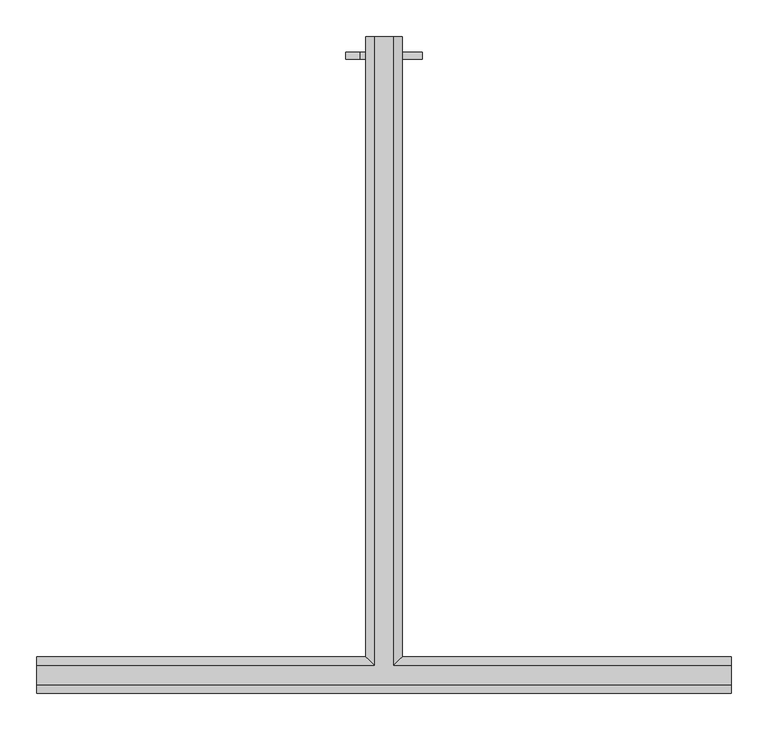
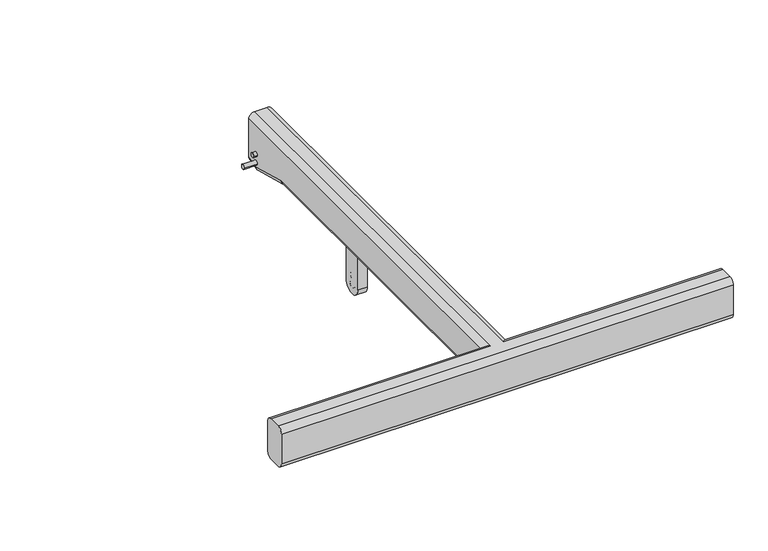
"""IFC4 building model written with IfcOpenShell, lengths in millimetres: proxy geometry, d&b SL-Series KSLi SUB Mounting Adapter : KSLi SUB Mounting Adapter."""

from ifc_helpers import new_model, si_unit, point, frame, frame_2d, origin, place, context, project, spatial, polyline, circle_curve, ellipse_curve, trimmed, segment, composite_curve, outline, extrude, source, transform, mapped, element, save
from ifc_brep_helpers import plane_surface, cylinder_surface, extruded_surface, advanced_brep


def communication_devices_4359931a(model_context):
    return source(origin(), model_context, "Body", "SolidModel", [
        extrude(outline(composite_curve([segment(trimmed(circle_curve(frame_2d((870.9465956, -6.4396812)), 5.0), [point((875.9465956, -6.4396812))], [point((865.9465956, -6.4396812))], False, "CARTESIAN"), True, "CONTINUOUS"), segment(trimmed(circle_curve(frame_2d((870.9465956, -6.4396812)), 5.0), [point((865.9465956, -6.4396812))], [point((875.9465956, -6.4396812))], False, "CARTESIAN"), True, "CONTINUOUS")], self_intersect=False)), frame((-52.7, 0.0, 0.0), z_axis=(1.0, 0.0, 0.0), x_axis=(0.0, 1.0, 0.0)), (0.0, 0.0, 1.0), 27.7),
        extrude(outline(composite_curve([segment(trimmed(circle_curve(frame_2d((870.9465956, 12.4665688)), 5.0), [point((875.9465956, 12.4665688))], [point((865.9465956, 12.4665688))], False, "CARTESIAN"), True, "CONTINUOUS"), segment(trimmed(circle_curve(frame_2d((870.9465956, 12.4665688)), 5.0), [point((865.9465956, 12.4665688))], [point((875.9465956, 12.4665688))], False, "CARTESIAN"), True, "CONTINUOUS")], self_intersect=False)), frame((-32.322499, 0.0, 0.0), z_axis=(1.0, 0.0, 0.0), x_axis=(0.0, 1.0, 0.0)), (0.0, 0.0, 1.0), 7.322499),
        extrude(outline(composite_curve([segment(trimmed(circle_curve(frame_2d((870.9465956, 12.4665688)), 5.0), [point((875.9465956, 12.4665688))], [point((865.9465956, 12.4665688))], False, "CARTESIAN"), True, "CONTINUOUS"), segment(trimmed(circle_curve(frame_2d((870.9465956, 12.4665688)), 5.0), [point((865.9465956, 12.4665688))], [point((875.9465956, 12.4665688))], False, "CARTESIAN"), True, "CONTINUOUS")], self_intersect=False)), frame((25.0, 0.0, 0.0), z_axis=(1.0, 0.0, 0.0), x_axis=(0.0, 1.0, 0.0)), (0.0, 0.0, 1.0), 27.7),
        advanced_brep(
        [(475.75, -2.8125, 9.0), (475.75, 9.1875, -3.0), (475.75, 35.1875, -3.0), (475.75, 47.1875, 9.0), (475.75, 47.1875, 75.0), (475.75, 35.1875, 87.0), (475.75, 9.1875, 87.0), (475.75, -2.8125, 75.0), (-475.75, -2.8125, 9.0), (-475.75, -2.8125, 75.0), (-475.75, 9.1875, 87.0), (-475.75, 35.1875, 87.0), (-475.75, 47.1875, 75.0), (-475.75, 47.1875, 9.0), (-475.75, 35.1875, -3.0), (-475.75, 9.1875, -3.0), (-13.0, 35.1875, -3.0), (-13.0, 779.1729408, -3.0), (13.0, 779.1729408, -3.0), (13.0, 35.1875, -3.0), (25.0, 47.1875, 9.0), (25.0, 47.1875, 75.0), (-25.0, 47.1875, 75.0), (-25.0, 47.1875, 9.0), (13.0, 35.1875, 87.0), (13.0, 897.1875, 87.0), (-13.0, 897.1875, 87.0), (-13.0, 35.1875, 87.0), (32.322499, 875.9465956, -6.4396812), (32.322499, 865.9465956, -6.4396812), (25.0, 875.9465956, -6.4396812), (25.0, 865.9465956, -6.4396812), (-25.0, 897.1875, 75.0), (25.0, 897.1875, 75.0), (25.0, 897.1875, -8.9728655), (13.0, 897.1875, -20.9728655), (-13.0, 897.1875, -20.9728655), (-25.0, 897.1875, -8.9728655), (25.0, 779.1729408, 9.0), (25.0, 870.9375, -16.1741308), (-25.0, 870.9375, -16.1741308), (-25.0, 779.1729408, 9.0), (13.0, 870.9375, -28.1741308), (-13.0, 870.9375, -28.1741308)],
        [
            (0, 1, circle_curve(frame((475.75, 9.1875, 9.0), z_axis=(1.0, 0.0, 0.0), x_axis=(0.0, -1.0, 0.0)), 12.0)),
            (1, 2),
            (2, 3, circle_curve(frame((475.75, 35.1875, 9.0), z_axis=(1.0, 0.0, 0.0), x_axis=(0.0, -1.0, 0.0)), 12.0)),
            (3, 4),
            (4, 5, circle_curve(frame((475.75, 35.1875, 75.0), z_axis=(1.0, 0.0, 0.0), x_axis=(0.0, -1.0, 0.0)), 12.0)),
            (5, 6),
            (6, 7, circle_curve(frame((475.75, 9.1875, 75.0), z_axis=(1.0, 0.0, 0.0), x_axis=(0.0, -1.0, 0.0)), 12.0)),
            (7, 0),
            (8, 9),
            (9, 10, circle_curve(frame((-475.75, 9.1875, 75.0), z_axis=(-1.0, 0.0, 0.0), x_axis=(0.0, -1.0, 0.0)), 12.0)),
            (10, 11),
            (11, 12, circle_curve(frame((-475.75, 35.1875, 75.0), z_axis=(-1.0, 0.0, 0.0), x_axis=(0.0, -1.0, 0.0)), 12.0)),
            (12, 13),
            (13, 14, circle_curve(frame((-475.75, 35.1875, 9.0), z_axis=(-1.0, 0.0, 0.0), x_axis=(0.0, -1.0, 0.0)), 12.0)),
            (14, 15),
            (15, 8, circle_curve(frame((-475.75, 9.1875, 9.0), z_axis=(-1.0, 0.0, 0.0), x_axis=(0.0, -1.0, 0.0)), 12.0)),
            (1, 15),
            (14, 16),
            (16, 17),
            (17, 18),
            (18, 19),
            (19, 2),
            (3, 20),
            (20, 21),
            (21, 4),
            (12, 22),
            (22, 23),
            (23, 13),
            (5, 24),
            (24, 25),
            (25, 26),
            (26, 27),
            (27, 11),
            (10, 6),
            (7, 9),
            (8, 0),
            (19, 20, ellipse_curve(frame((13.0, 35.1875, 9.0), z_axis=(0.7071067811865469, -0.7071067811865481, 0.0), x_axis=(0.7071067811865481, 0.7071067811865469, 0.0)), 16.9705627, 12.0)),
            (23, 16, ellipse_curve(frame((-13.0, 35.1875, 9.0), z_axis=(-0.7071067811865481, -0.7071067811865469, 0.0), x_axis=(0.7071067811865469, -0.7071067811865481, 0.0)), 16.9705627, 12.0)),
            (21, 24, ellipse_curve(frame((13.0, 35.1875, 75.0), z_axis=(0.7071067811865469, -0.7071067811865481, 0.0), x_axis=(0.7071067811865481, 0.7071067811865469, 0.0)), 16.9705627, 12.0)),
            (27, 22, ellipse_curve(frame((-13.0, 35.1875, 75.0), z_axis=(-0.7071067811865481, -0.7071067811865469, 0.0), x_axis=(0.7071067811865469, -0.7071067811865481, 0.0)), 16.9705627, 12.0)),
            (28, 29, circle_curve(frame((32.322499, 870.9465956, -6.4396812), z_axis=(1.0, 0.0, 0.0), x_axis=(0.0, -1.0, 0.0)), 5.0)),
            (29, 28, circle_curve(frame((32.322499, 870.9465956, -6.4396812), z_axis=(1.0, 0.0, 0.0), x_axis=(0.0, -1.0, 0.0)), 5.0)),
            (28, 30),
            (30, 31, circle_curve(frame((25.0, 870.9465956, -6.4396812), z_axis=(1.0, 0.0, 0.0), x_axis=(0.0, -1.0, 0.0)), 5.0)),
            (31, 29),
            (31, 30, circle_curve(frame((25.0, 870.9465956, -6.4396812), z_axis=(1.0, 0.0, 0.0), x_axis=(0.0, -1.0, 0.0)), 5.0)),
            (32, 26, circle_curve(frame((-13.0, 897.1875, 75.0), z_axis=(0.0, 1.0, 0.0), x_axis=(1.0, 0.0, 0.0)), 12.0)),
            (25, 33, circle_curve(frame((13.0, 897.1875, 75.0), z_axis=(0.0, 1.0, 0.0), x_axis=(1.0, 0.0, 0.0)), 12.0)),
            (33, 34),
            (34, 35, circle_curve(frame((13.0, 897.1875, -8.9728655), z_axis=(0.0, 1.0, 0.0), x_axis=(1.0, 0.0, 0.0)), 12.0)),
            (35, 36),
            (36, 37, circle_curve(frame((-13.0, 897.1875, -8.9728655), z_axis=(0.0, 1.0, 0.0), x_axis=(1.0, 0.0, 0.0)), 12.0)),
            (37, 32),
            (33, 21),
            (20, 38),
            (38, 39),
            (39, 34),
            (22, 32),
            (37, 40),
            (40, 41),
            (41, 23),
            (41, 17, circle_curve(frame((-13.0, 779.1729408, 9.0), z_axis=(0.0, -1.0, 0.0), x_axis=(1.0, 0.0, 0.0)), 12.0)),
            (18, 38, circle_curve(frame((13.0, 779.1729408, 9.0), z_axis=(0.0, -1.0, 0.0), x_axis=(1.0, 0.0, 0.0)), 12.0)),
            (39, 42, circle_curve(frame((13.0, 870.9375, -16.1741308), z_axis=(0.0, 1.0, 0.0), x_axis=(1.0, 0.0, 0.0)), 12.0)),
            (42, 35),
            (42, 43),
            (43, 36),
            (43, 40, circle_curve(frame((-13.0, 870.9375, -16.1741308), z_axis=(0.0, 1.0, 0.0), x_axis=(1.0, 0.0, 0.0)), 12.0)),
            (18, 42),
            (17, 43),
        ],
        [
            plane_surface(frame((475.75, -2.8125, 9.0), z_axis=(1.0, 0.0, 0.0), x_axis=(0.0, 0.0, -1.0))),
            plane_surface(frame((-475.75, -2.8125, 9.0), z_axis=(-1.0, 0.0, 0.0), x_axis=(0.0, 0.0, 1.0))),
            plane_surface(frame((475.75, 9.1875, -3.0), z_axis=(0.0, 0.0, -1.0), x_axis=(-1.0, 0.0, 0.0))),
            plane_surface(frame((475.75, 47.1875, 9.0), z_axis=(0.0, 1.0, 0.0), x_axis=(-1.0, 0.0, 0.0))),
            plane_surface(frame((475.75, 35.1875, 87.0), z_axis=(0.0, 0.0, 1.0), x_axis=(-1.0, 0.0, 0.0))),
            plane_surface(frame((475.75, -2.8125, 75.0), z_axis=(0.0, -1.0, 0.0), x_axis=(-1.0, 0.0, 0.0))),
            cylinder_surface(frame((-475.75, 9.1875, 9.0), z_axis=(1.0, 0.0, 0.0), x_axis=(0.0, -1.0, 0.0)), 12.0),
            cylinder_surface(frame((-475.75, 35.1875, 9.0), z_axis=(1.0, 0.0, 0.0), x_axis=(0.0, -1.0, 0.0)), 12.0),
            cylinder_surface(frame((-475.75, 35.1875, 75.0), z_axis=(1.0, 0.0, 0.0), x_axis=(0.0, -1.0, 0.0)), 12.0),
            cylinder_surface(frame((-475.75, 9.1875, 75.0), z_axis=(1.0, 0.0, 0.0), x_axis=(0.0, -1.0, 0.0)), 12.0),
            plane_surface(frame((32.322499, 865.9465956, -6.4396812), z_axis=(1.0, 0.0, 0.0), x_axis=(0.0, 0.0, -1.0))),
            cylinder_surface(frame((25.0, 870.9465956, -6.4396812), z_axis=(1.0, 0.0, 0.0), x_axis=(0.0, -1.0, 0.0)), 5.0),
            plane_surface(frame((-1.0, 897.1875, 9.0), z_axis=(0.0, 1.0, 0.0), x_axis=(0.0, 0.0, -1.0))),
            plane_surface(frame((25.0, 14.0, 9.0), z_axis=(1.0, 0.0, 0.0), x_axis=(0.0, 1.0, 0.0))),
            plane_surface(frame((-25.0, 14.0, 75.0), z_axis=(-1.0, 0.0, 0.0), x_axis=(0.0, 1.0, 0.0))),
            cylinder_surface(frame((-13.0, 897.1875, 9.0), z_axis=(0.0, -1.0, 0.0), x_axis=(1.0, 0.0, 0.0)), 12.0),
            cylinder_surface(frame((13.0, 897.1875, 9.0), z_axis=(0.0, -1.0, 0.0), x_axis=(1.0, 0.0, 0.0)), 12.0),
            cylinder_surface(frame((13.0, 897.1875, 75.0), z_axis=(0.0, -1.0, 0.0), x_axis=(1.0, 0.0, 0.0)), 12.0),
            cylinder_surface(frame((-13.0, 897.1875, 75.0), z_axis=(0.0, -1.0, 0.0), x_axis=(1.0, 0.0, 0.0)), 12.0),
            extruded_surface(trimmed(circle_curve(frame((13.0, 897.1875, -8.9728655), z_axis=(0.0, -1.0, 0.0), x_axis=(1.0, 0.0, 0.0)), 12.0), [point((13.0, 897.1875, -20.9728655))], [point((25.0, 897.1875, -8.9728655))], True, "CARTESIAN"), (0.0, -26.25, -7.201265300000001), 27.219858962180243),
            plane_surface(frame((0.0, 897.1875, -20.9728655), z_axis=(0.0, 0.26455924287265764, -0.9643694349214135), x_axis=(1.0, 0.0, 0.0))),
            extruded_surface(trimmed(circle_curve(frame((-13.0, 897.1875, -8.9728655), z_axis=(0.0, -1.0, 0.0), x_axis=(1.0, 0.0, 0.0)), 12.0), [point((-25.0, 897.1875, -8.9728655))], [point((-13.0, 897.1875, -20.9728655))], True, "CARTESIAN"), (0.0, -26.25, -7.201265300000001), 27.219858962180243),
            extruded_surface(trimmed(circle_curve(frame((13.0, 779.1729408, 9.0), z_axis=(0.0, 1.0, 0.0), x_axis=(1.0, 0.0, 0.0)), 12.0), [point((25.0, 779.1729408, 9.0))], [point((13.0, 779.1729408, -3.0))], True, "CARTESIAN"), (0.0, 91.76455920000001, -25.1741308), 95.15498508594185),
            plane_surface(frame((0.0, 779.1729408, -3.0), z_axis=(0.0, -0.26455924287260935, -0.9643694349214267), x_axis=(-1.0, 0.0, 0.0))),
            extruded_surface(trimmed(circle_curve(frame((-13.0, 779.1729408, 9.0), z_axis=(0.0, 1.0, 0.0), x_axis=(1.0, 0.0, 0.0)), 12.0), [point((-13.0, 779.1729408, -3.0))], [point((-25.0, 779.1729408, 9.0))], True, "CARTESIAN"), (0.0, 91.76455920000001, -25.1741308), 95.15498508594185),
        ],
        [
            (0, [[1, 2, 3, 4, 5, 6, 7, 8]]),
            (1, [[9, 10, 11, 12, 13, 14, 15, 16]]),
            (2, [[-2, 17, -15, 18, 19, 20, 21, 22]]),
            (3, [[-4, 23, 24, 25]]),
            (3, [[-13, 26, 27, 28]]),
            (4, [[-6, 29, 30, 31, 32, 33, -11, 34]]),
            (5, [[-8, 35, -9, 36]]),
            (6, [[-1, -36, -16, -17]]),
            (7, [[-3, -22, 37, -23]]),
            (7, [[-14, -28, 38, -18]]),
            (8, [[-5, -25, 39, -29]]),
            (8, [[-12, -33, 40, -26]]),
            (9, [[-7, -34, -10, -35]]),
            (10, [[41, 42]]),
            (11, [[-41, 43, 44, 45]]),
            (11, [[-42, -45, 46, -43]]),
            (12, [[47, -31, 48, 49, 50, 51, 52, 53]]),
            (13, [[54, -24, 55, 56, 57, -49], [-46, -44]]),
            (14, [[58, -53, 59, 60, 61, -27]]),
            (15, [[-38, -61, 62, -19]]),
            (16, [[-37, -21, 63, -55]]),
            (17, [[-48, -30, -39, -54]]),
            (18, [[-47, -58, -40, -32]]),
            (19, [[-50, -57, 64, 65]]),
            (20, [[-51, -65, 66, 67]]),
            (21, [[-52, -67, 68, -59]]),
            (22, [[-56, -63, 69, -64]]),
            (23, [[-69, -20, 70, -66]]),
            (24, [[-60, -68, -70, -62]]),
        ],
    ),
        extrude(outline(composite_curve([segment(trimmed(circle_curve(frame_2d((546.2294036, -86.1640096)), 21.0000314), [point((567.2294351, -86.1640096))], [point((525.2293722, -86.1640096))], False, "CARTESIAN"), True, "CONTINUOUS"), segment(polyline([(525.2293722, -86.1640096), (525.2293722, -3.0), (567.2294351, -3.0), (567.2294351, -86.1640096)]), True, "CONTINUOUS")], self_intersect=False)), frame((-10.0, 0.0, 0.0), z_axis=(1.0, 0.0, 0.0), x_axis=(0.0, 1.0, 0.0)), (0.0, 0.0, 1.0), 20.0),
        extrude(outline(composite_curve([segment(trimmed(circle_curve(frame_2d((546.2294036, -86.1640096)), 21.0000314), [point((567.2294351, -86.1640096))], [point((525.2293722, -86.1640096))], False, "CARTESIAN"), True, "CONTINUOUS"), segment(polyline([(525.2293722, -86.1640096), (525.2293722, -3.0), (567.2294351, -3.0), (567.2294351, -86.1640096)]), True, "CONTINUOUS")], self_intersect=False), holes=[composite_curve([segment(trimmed(circle_curve(frame_2d((546.2294036, -86.1640096)), 6.730637), [point((552.9600406, -86.1640096))], [point((539.4987667, -86.1640096))], True, "CARTESIAN"), True, "CONTINUOUS"), segment(trimmed(circle_curve(frame_2d((546.2294036, -86.1640096)), 6.730637), [point((539.4987667, -86.1640096))], [point((552.9600406, -86.1640096))], True, "CARTESIAN"), True, "CONTINUOUS")], self_intersect=False), composite_curve([segment(polyline([(551.3709056, -67.7774707), (551.3709056, -65.8031089)]), True, "CONTINUOUS"), segment(trimmed(circle_curve(frame_2d((546.2294036, -65.8031089)), 5.141502), [point((551.3709056, -65.8031089))], [point((541.0879017, -65.8031089))], True, "CARTESIAN"), True, "CONTINUOUS"), segment(polyline([(541.0879017, -65.8031089), (541.0879017, -67.7774707)]), True, "CONTINUOUS"), segment(trimmed(circle_curve(frame_2d((546.2294036, -67.7774707)), 5.141502), [point((541.0879017, -67.7774707))], [point((551.3709056, -67.7774707))], True, "CARTESIAN"), True, "CONTINUOUS")], self_intersect=False)]), frame((-10.0, 0.0, 0.0), z_axis=(1.0, 0.0, 0.0), x_axis=(0.0, 1.0, 0.0)), (0.0, 0.0, 1.0), 20.0),
    ])


if __name__ == "__main__":
    model = new_model("IFC4")
    model_context = context("Model", 3, world=origin())
    ifc_project = project(units=[si_unit("LENGTHUNIT", "METRE", prefix="MILLI")], contexts=[model_context])
    site = spatial("IfcSite", under=ifc_project)
    building = spatial("IfcBuilding", under=site)
    placement = place(None, origin())
    communication_devices_shape = communication_devices_4359931a(model_context)
    element("IfcBuildingElementProxy", 1, Name="d&b SL-Series KSLi SUB Mounting Adapter : KSLi SUB Mounting Adapter", ObjectType="d&b SL-Series KSLi SUB Mounting Adapter : KSLi SUB Mounting Adapter", at=placement, inside=building, context=model_context, shape_type="MappedRepresentation", body=[
        mapped(communication_devices_shape, transform((0.0, 0.0, 0.0), x_axis=(1.0, 0.0, 0.0), y_axis=(0.0, 1.0, 0.0), z_axis=(0.0, 0.0, 1.0))),
    ])
    save(model, "model.ifc")
